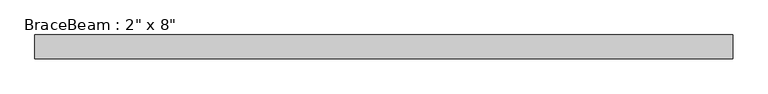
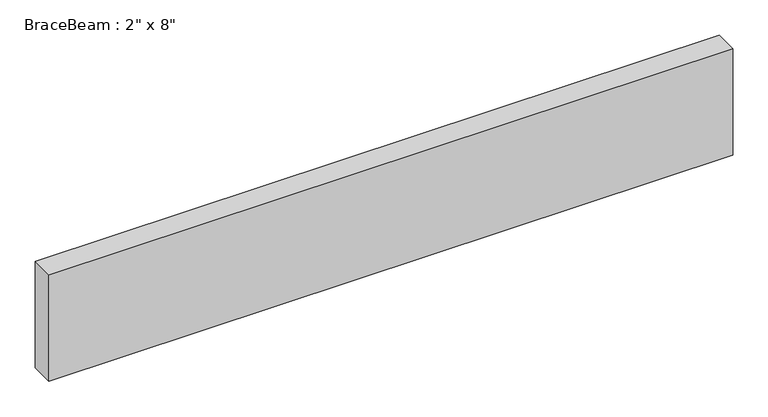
"""IFC4 building model written with IfcOpenShell, lengths in millimetres: beam geometry."""

from ifc_helpers import new_model, si_unit, frame, origin, place, context, project, spatial, polyline, outline, extrude, source, transform, mapped, element, save


def beam_a9cb3005(model_context):
    return source(origin(), model_context, "Body", "SweptSolid", [
        extrude(outline(polyline([(-558.8, -19.05), (-558.8, 19.05), (558.8, 19.05), (558.8, -19.05), (-558.8, -19.05)])), frame((0.0, 0.0, -92.075), z_axis=(0.0, 0.0, 1.0), x_axis=(1.0, 0.0, 0.0)), (0.0, 0.0, 1.0), 184.15),
    ])


if __name__ == "__main__":
    model = new_model("IFC4")
    model_context = context("Model", 3, world=origin())
    ifc_project = project(units=[si_unit("LENGTHUNIT", "METRE", prefix="MILLI")], contexts=[model_context])
    site = spatial("IfcSite", under=ifc_project)
    building = spatial("IfcBuilding", under=site)
    placement = place(None, origin())
    beam_shape = beam_a9cb3005(model_context)
    element("IfcBeam", 1, ObjectType="BraceBeam : 2\" x 8\"", at=placement, inside=building, context=model_context, shape_type="MappedRepresentation", body=[
        mapped(beam_shape, transform((0.0, 0.0, 0.0), x_axis=(1.0, 0.0, 0.0), y_axis=(0.0, 1.0, 0.0), z_axis=(0.0, 0.0, 1.0))),
    ])
    save(model, "model.ifc")
